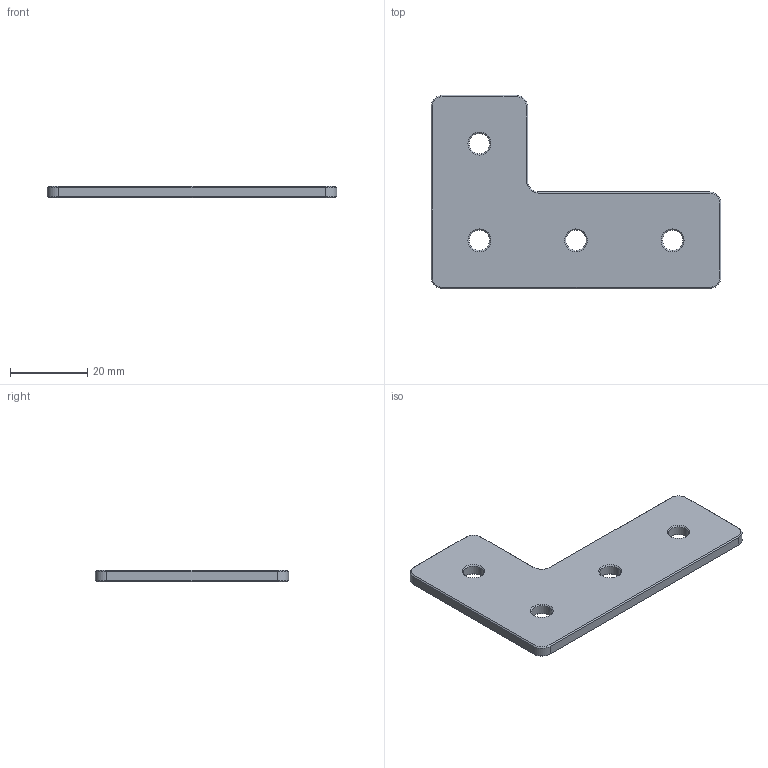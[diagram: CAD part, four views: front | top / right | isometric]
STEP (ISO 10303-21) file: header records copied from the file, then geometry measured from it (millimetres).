
FILE_DESCRIPTION (( 'STEP AP214' ), '1' );
FILE_NAME ('SFP-L2575.STEP', '2022-12-07T01:49:16', ( '' ), ( '' ), 'SwSTEP 2.0', 'SolidWorks 2018', '' );
FILE_SCHEMA (( 'AUTOMOTIVE_DESIGN' ));
Length unit declared in the file: millimetre
Products named in the file (1): SFP-L2575
Bounding box: 75 x 50 x 3 mm (x, y, z)
Volume: 7184.1 mm3; surface area: 5626.8 mm2
Topology: 1 solids, 1 shells, 62 faces, 140 edges, 80 vertices
Faces by surface type: cone 28, plane 20, cylinder 14
Entity records: 1750 total; most frequent: DIRECTION 322, CARTESIAN_POINT 283, ORIENTED_EDGE 280, EDGE_CURVE 140, AXIS2_PLACEMENT_3D 119, LINE 84, VECTOR 84, VERTEX_POINT 80
